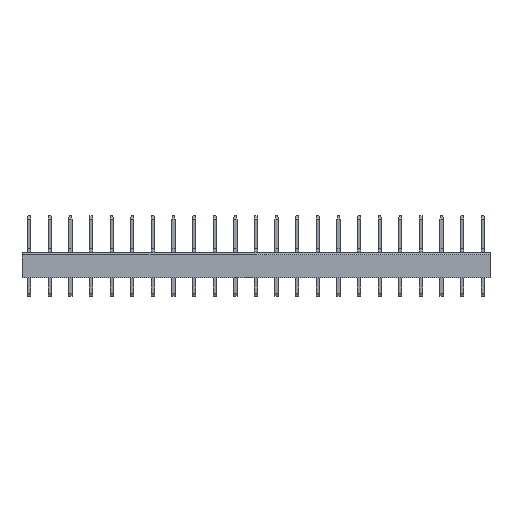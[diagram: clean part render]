
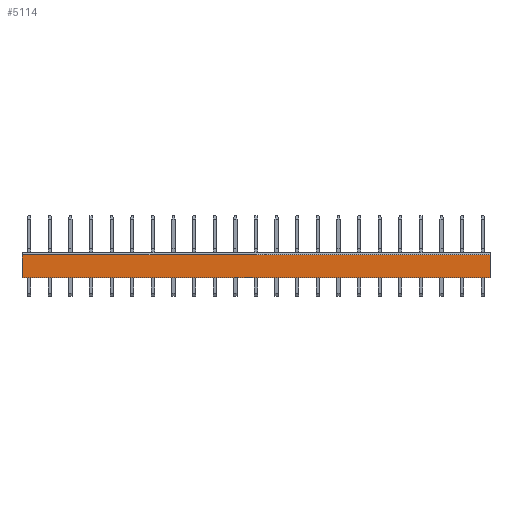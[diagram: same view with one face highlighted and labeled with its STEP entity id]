
A CAD part, top view. The second image highlights one B-rep face of the part: STEP entity #5114.
In plain terms, the highlighted planar face has unit normal (0, 0, 1).
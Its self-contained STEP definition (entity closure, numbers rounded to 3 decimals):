
#5091 = ORIENTED_EDGE ( 'NONE', *, *, #5092, .T. ) ;
#5092 = EDGE_CURVE ( 'NONE', #82542, #70216, #15571, .T. ) ;
#5111 = VERTEX_POINT ( 'NONE', #15660 ) ;
#5113 = EDGE_CURVE ( 'NONE', #5111, #70103, #15659, .T. ) ;
#5114 = ADVANCED_FACE ( 'NONE', ( #15655 ), #15654, .F. ) ;
#5115 = EDGE_LOOP ( 'NONE', ( #5116, #5117, #5118, #5091 ) ) ;
#5116 = ORIENTED_EDGE ( 'NONE', *, *, #70215, .F. ) ;
#5117 = ORIENTED_EDGE ( 'NONE', *, *, #5113, .F. ) ;
#5118 = ORIENTED_EDGE ( 'NONE', *, *, #5119, .F. ) ;
#5119 = EDGE_CURVE ( 'NONE', #82542, #5111, #15649, .T. ) ;
#15568 = DIRECTION ( 'NONE',  ( -1., 0., 0. ) ) ;
#15569 = VECTOR ( 'NONE', #15568, 1000. ) ;
#15570 = CARTESIAN_POINT ( 'NONE',  ( 66.75, 5.5, 0. ) ) ;
#15571 = LINE ( 'NONE', #15570, #15569 ) ;
#15646 = DIRECTION ( 'NONE',  ( 0., -1., 0. ) ) ;
#15647 = VECTOR ( 'NONE', #15646, 1000. ) ;
#15648 = CARTESIAN_POINT ( 'NONE',  ( 123.5, 3., 0. ) ) ;
#15649 = LINE ( 'NONE', #15648, #15647 ) ;
#15650 = DIRECTION ( 'NONE',  ( 0., 1., 0. ) ) ;
#15651 = DIRECTION ( 'NONE',  ( 0., 0., -1. ) ) ;
#15652 = CARTESIAN_POINT ( 'NONE',  ( 10., 0., 0. ) ) ;
#15653 = AXIS2_PLACEMENT_3D ( 'NONE', #15652, #15651, #15650 ) ;
#15654 = PLANE ( 'NONE',  #15653 ) ;
#15655 = FACE_OUTER_BOUND ( 'NONE', #5115, .T. ) ;
#15656 = DIRECTION ( 'NONE',  ( -1., 0., 0. ) ) ;
#15657 = VECTOR ( 'NONE', #15656, 1000. ) ;
#15658 = CARTESIAN_POINT ( 'NONE',  ( 10., 0., 0. ) ) ;
#15659 = LINE ( 'NONE', #15658, #15657 ) ;
#15660 = CARTESIAN_POINT ( 'NONE',  ( 123.5, 0., 0. ) ) ;
#70103 = VERTEX_POINT ( 'NONE', #70605 ) ;
#70215 = EDGE_CURVE ( 'NONE', #70103, #70216, #70819, .T. ) ;
#70216 = VERTEX_POINT ( 'NONE', #70812 ) ;
#70605 = CARTESIAN_POINT ( 'NONE',  ( 10., 0., 0. ) ) ;
#70812 = CARTESIAN_POINT ( 'NONE',  ( 10., 5.5, 0. ) ) ;
#70814 = DIRECTION ( 'NONE',  ( 0., 1., 0. ) ) ;
#70816 = VECTOR ( 'NONE', #70814, 1000. ) ;
#70817 = CARTESIAN_POINT ( 'NONE',  ( 10., 2.75, 0. ) ) ;
#70819 = LINE ( 'NONE', #70817, #70816 ) ;
#81496 = CARTESIAN_POINT ( 'NONE',  ( 123.5, 5.5, 0. ) ) ;
#82542 = VERTEX_POINT ( 'NONE', #81496 ) ;
